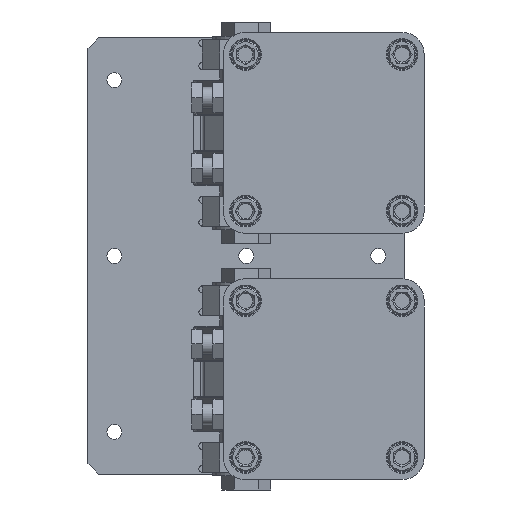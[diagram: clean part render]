
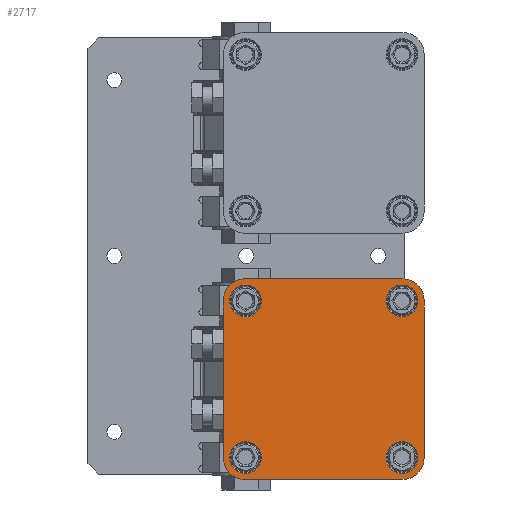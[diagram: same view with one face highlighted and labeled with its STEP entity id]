
A CAD part, front view. The second image highlights one B-rep face of the part: STEP entity #2717.
In plain terms, the highlighted planar face has unit normal (0, -1, 0).
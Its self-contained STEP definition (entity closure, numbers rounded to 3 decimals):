
#2717=ADVANCED_FACE('',(#9460,#9461,#9462,#9463,#9464),#4056,.F.);
#4056=PLANE('',#28265);
#5489=LINE('',#41063,#7581);
#5490=LINE('',#41068,#7582);
#5491=LINE('',#41072,#7583);
#5492=LINE('',#41076,#7584);
#7581=VECTOR('',#33276,1.);
#7582=VECTOR('',#33279,1.);
#7583=VECTOR('',#33282,1.);
#7584=VECTOR('',#33285,1.);
#9460=FACE_BOUND('',#11290,.T.);
#9461=FACE_BOUND('',#11291,.T.);
#9462=FACE_BOUND('',#11292,.T.);
#9463=FACE_BOUND('',#11293,.T.);
#9464=FACE_BOUND('',#11294,.T.);
#11290=EDGE_LOOP('',(#15654,#15655,#15656,#15657,#15658,#15659,#15660,#15661));
#11291=EDGE_LOOP('',(#15662));
#11292=EDGE_LOOP('',(#15663));
#11293=EDGE_LOOP('',(#15664));
#11294=EDGE_LOOP('',(#15665));
#15654=ORIENTED_EDGE('',*,*,#23633,.F.);
#15655=ORIENTED_EDGE('',*,*,#23634,.T.);
#15656=ORIENTED_EDGE('',*,*,#23635,.F.);
#15657=ORIENTED_EDGE('',*,*,#23636,.T.);
#15658=ORIENTED_EDGE('',*,*,#23637,.F.);
#15659=ORIENTED_EDGE('',*,*,#23638,.T.);
#15660=ORIENTED_EDGE('',*,*,#23639,.F.);
#15661=ORIENTED_EDGE('',*,*,#23640,.T.);
#15662=ORIENTED_EDGE('',*,*,#23641,.T.);
#15663=ORIENTED_EDGE('',*,*,#23632,.T.);
#15664=ORIENTED_EDGE('',*,*,#23642,.T.);
#15665=ORIENTED_EDGE('',*,*,#23643,.T.);
#20761=VERTEX_POINT('',#41061);
#20762=VERTEX_POINT('',#41064);
#20763=VERTEX_POINT('',#41065);
#20764=VERTEX_POINT('',#41067);
#20765=VERTEX_POINT('',#41069);
#20766=VERTEX_POINT('',#41071);
#20767=VERTEX_POINT('',#41073);
#20768=VERTEX_POINT('',#41075);
#20769=VERTEX_POINT('',#41077);
#20770=VERTEX_POINT('',#41080);
#20771=VERTEX_POINT('',#41082);
#20772=VERTEX_POINT('',#41084);
#23632=EDGE_CURVE('',#20761,#20761,#26361,.T.);
#23633=EDGE_CURVE('',#20762,#20763,#5489,.T.);
#23634=EDGE_CURVE('',#20762,#20764,#26362,.T.);
#23635=EDGE_CURVE('',#20765,#20764,#5490,.T.);
#23636=EDGE_CURVE('',#20765,#20766,#26363,.T.);
#23637=EDGE_CURVE('',#20767,#20766,#5491,.T.);
#23638=EDGE_CURVE('',#20767,#20768,#26364,.T.);
#23639=EDGE_CURVE('',#20769,#20768,#5492,.T.);
#23640=EDGE_CURVE('',#20769,#20763,#26365,.T.);
#23641=EDGE_CURVE('',#20770,#20770,#26366,.T.);
#23642=EDGE_CURVE('',#20771,#20771,#26367,.T.);
#23643=EDGE_CURVE('',#20772,#20772,#26368,.T.);
#26361=CIRCLE('',#28256,9.);
#26362=CIRCLE('',#28258,12.);
#26363=CIRCLE('',#28259,12.);
#26364=CIRCLE('',#28260,12.);
#26365=CIRCLE('',#28261,12.);
#26366=CIRCLE('',#28262,9.);
#26367=CIRCLE('',#28263,9.);
#26368=CIRCLE('',#28264,9.);
#28256=AXIS2_PLACEMENT_3D('',#41060,#33272,#33273);
#28258=AXIS2_PLACEMENT_3D('',#41066,#33277,#33278);
#28259=AXIS2_PLACEMENT_3D('',#41070,#33280,#33281);
#28260=AXIS2_PLACEMENT_3D('',#41074,#33283,#33284);
#28261=AXIS2_PLACEMENT_3D('',#41078,#33286,#33287);
#28262=AXIS2_PLACEMENT_3D('',#41079,#33288,#33289);
#28263=AXIS2_PLACEMENT_3D('',#41081,#33290,#33291);
#28264=AXIS2_PLACEMENT_3D('',#41083,#33292,#33293);
#28265=AXIS2_PLACEMENT_3D('',#41085,#33294,#33295);
#33272=DIRECTION('',(0.,1.,0.));
#33273=DIRECTION('',(1.,0.,0.));
#33276=DIRECTION('',(-1.,0.,0.));
#33277=DIRECTION('',(0.,-1.,0.));
#33278=DIRECTION('',(0.,0.,-1.));
#33279=DIRECTION('',(0.,0.,-1.));
#33280=DIRECTION('',(0.,-1.,0.));
#33281=DIRECTION('',(1.,0.,0.));
#33282=DIRECTION('',(1.,0.,0.));
#33283=DIRECTION('',(0.,-1.,0.));
#33284=DIRECTION('',(0.,0.,1.));
#33285=DIRECTION('',(0.,0.,1.));
#33286=DIRECTION('',(0.,-1.,0.));
#33287=DIRECTION('',(-1.,0.,0.));
#33288=DIRECTION('',(0.,1.,0.));
#33289=DIRECTION('',(-1.,0.,0.));
#33290=DIRECTION('',(0.,1.,0.));
#33291=DIRECTION('',(-1.,0.,0.));
#33292=DIRECTION('',(0.,1.,0.));
#33293=DIRECTION('',(-1.,0.,0.));
#33294=DIRECTION('',(0.,1.,0.));
#33295=DIRECTION('',(1.,0.,0.));
#41060=CARTESIAN_POINT('',(-0.5,-284.5,-46.5));
#41061=CARTESIAN_POINT('',(8.5,-284.5,-46.5));
#41063=CARTESIAN_POINT('',(89.,-284.5,-59.));
#41064=CARTESIAN_POINT('',(89.,-284.5,-59.));
#41065=CARTESIAN_POINT('',(-1.,-284.5,-59.));
#41066=CARTESIAN_POINT('',(89.,-284.5,-47.));
#41067=CARTESIAN_POINT('',(101.,-284.5,-47.));
#41068=CARTESIAN_POINT('',(101.,-284.5,43.));
#41069=CARTESIAN_POINT('',(101.,-284.5,43.));
#41070=CARTESIAN_POINT('',(89.,-284.5,43.));
#41071=CARTESIAN_POINT('',(89.,-284.5,55.));
#41072=CARTESIAN_POINT('',(-1.,-284.5,55.));
#41073=CARTESIAN_POINT('',(-1.,-284.5,55.));
#41074=CARTESIAN_POINT('',(-1.,-284.5,43.));
#41075=CARTESIAN_POINT('',(-13.,-284.5,43.));
#41076=CARTESIAN_POINT('',(-13.,-284.5,-47.));
#41077=CARTESIAN_POINT('',(-13.,-284.5,-47.));
#41078=CARTESIAN_POINT('',(-1.,-284.5,-47.));
#41079=CARTESIAN_POINT('',(88.5,-284.5,-46.5));
#41080=CARTESIAN_POINT('',(79.5,-284.5,-46.5));
#41081=CARTESIAN_POINT('',(-0.5,-284.5,42.5));
#41082=CARTESIAN_POINT('',(-9.5,-284.5,42.5));
#41083=CARTESIAN_POINT('',(88.5,-284.5,42.5));
#41084=CARTESIAN_POINT('',(79.5,-284.5,42.5));
#41085=CARTESIAN_POINT('',(44.,-284.5,-2.));
